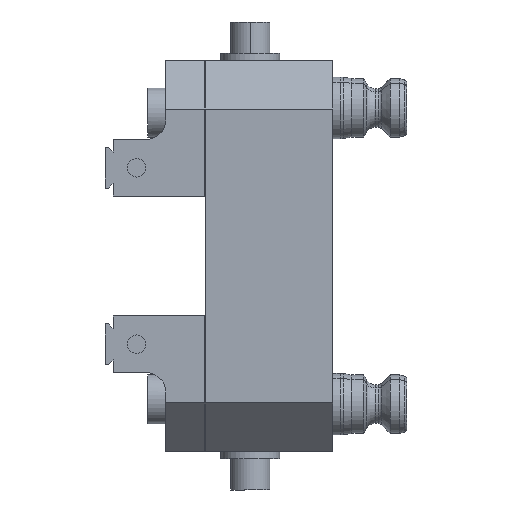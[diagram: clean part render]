
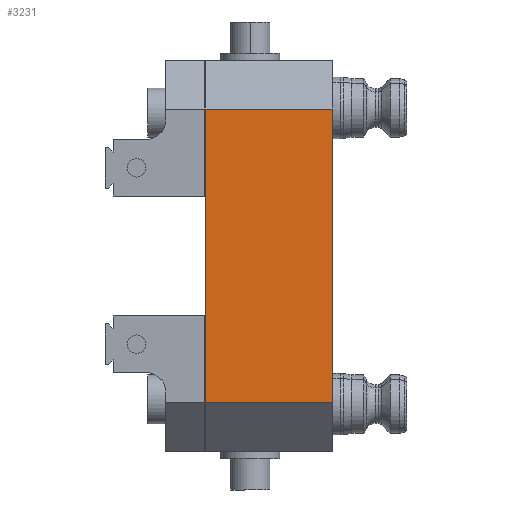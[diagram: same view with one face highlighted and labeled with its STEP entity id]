
A CAD part, left-side view. The second image highlights one B-rep face of the part: STEP entity #3231.
In plain terms, the highlighted planar face has unit normal (-1, 0, 0).
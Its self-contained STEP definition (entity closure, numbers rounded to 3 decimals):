
#26 = ORIENTED_EDGE ( 'NONE', *, *, #5823, .F. ) ;
#496 = FACE_OUTER_BOUND ( 'NONE', #5746, .T. ) ;
#971 = DIRECTION ( 'NONE',  ( 0., 0., -1. ) ) ;
#1088 = VECTOR ( 'NONE', #4145, 1000. ) ;
#1401 = VERTEX_POINT ( 'NONE', #4155 ) ;
#1501 = CARTESIAN_POINT ( 'NONE',  ( 0., 0., 127. ) ) ;
#1621 = ORIENTED_EDGE ( 'NONE', *, *, #6648, .F. ) ;
#2098 = DIRECTION ( 'NONE',  ( 1., 0., 0. ) ) ;
#2186 = VECTOR ( 'NONE', #4120, 1000. ) ;
#2337 = DIRECTION ( 'NONE',  ( 0., 0., -1. ) ) ;
#2383 = CARTESIAN_POINT ( 'NONE',  ( 0., 41.275, 127. ) ) ;
#2412 = DIRECTION ( 'NONE',  ( 0., 1., 0. ) ) ;
#2681 = PLANE ( 'NONE',  #5798 ) ;
#2943 = VERTEX_POINT ( 'NONE', #6368 ) ;
#3030 = VECTOR ( 'NONE', #2412, 1000. ) ;
#3231 = ADVANCED_FACE ( 'NONE', ( #496 ), #2681, .F. ) ;
#3765 = ORIENTED_EDGE ( 'NONE', *, *, #5781, .T. ) ;
#4082 = CARTESIAN_POINT ( 'NONE',  ( 0., 0., 127. ) ) ;
#4102 = VECTOR ( 'NONE', #2337, 1000. ) ;
#4120 = DIRECTION ( 'NONE',  ( 0., 1., 0. ) ) ;
#4145 = DIRECTION ( 'NONE',  ( 0., 0., -1. ) ) ;
#4155 = CARTESIAN_POINT ( 'NONE',  ( 0., 41.275, 111.125 ) ) ;
#4215 = LINE ( 'NONE', #7045, #2186 ) ;
#4411 = CARTESIAN_POINT ( 'NONE',  ( 0., 41.275, 15.875 ) ) ;
#4677 = VERTEX_POINT ( 'NONE', #6905 ) ;
#5559 = EDGE_CURVE ( 'NONE', #1401, #7204, #5874, .T. ) ;
#5643 = LINE ( 'NONE', #4082, #4102 ) ;
#5746 = EDGE_LOOP ( 'NONE', ( #1621, #3765, #7027, #26 ) ) ;
#5781 = EDGE_CURVE ( 'NONE', #4677, #1401, #7074, .T. ) ;
#5798 = AXIS2_PLACEMENT_3D ( 'NONE', #1501, #2098, #971 ) ;
#5823 = EDGE_CURVE ( 'NONE', #2943, #7204, #4215, .T. ) ;
#5874 = LINE ( 'NONE', #2383, #1088 ) ;
#6368 = CARTESIAN_POINT ( 'NONE',  ( 0., 0., 15.875 ) ) ;
#6648 = EDGE_CURVE ( 'NONE', #4677, #2943, #5643, .T. ) ;
#6905 = CARTESIAN_POINT ( 'NONE',  ( 0., 0., 111.125 ) ) ;
#7027 = ORIENTED_EDGE ( 'NONE', *, *, #5559, .T. ) ;
#7045 = CARTESIAN_POINT ( 'NONE',  ( 0., 0., 15.875 ) ) ;
#7074 = LINE ( 'NONE', #7674, #3030 ) ;
#7204 = VERTEX_POINT ( 'NONE', #4411 ) ;
#7674 = CARTESIAN_POINT ( 'NONE',  ( 0., 0., 111.125 ) ) ;
